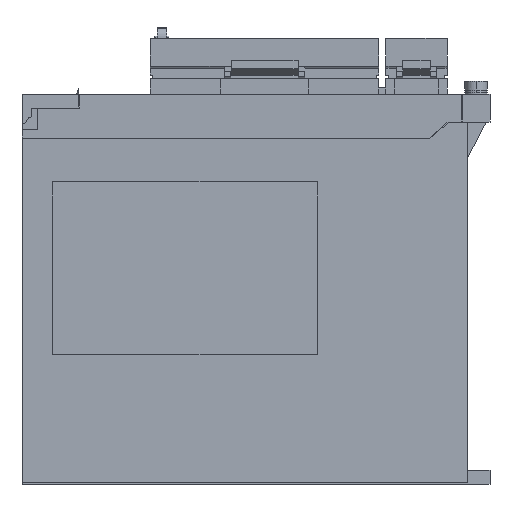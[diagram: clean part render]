
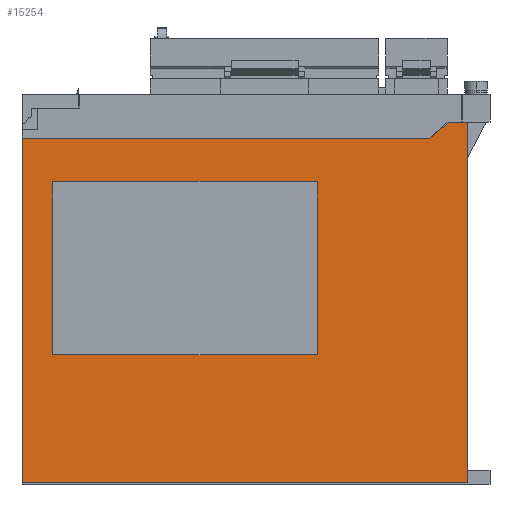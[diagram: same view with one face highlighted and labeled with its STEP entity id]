
A CAD part, left-side view. The second image highlights one B-rep face of the part: STEP entity #15254.
In plain terms, the highlighted planar face has unit normal (-1, 0, 0).
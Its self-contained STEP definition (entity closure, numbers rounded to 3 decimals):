
#12683 = VERTEX_POINT ( 'NONE', #39495 ) ;
#12685 = EDGE_CURVE ( 'NONE', #12683, #12686, #39494, .T. ) ;
#12686 = VERTEX_POINT ( 'NONE', #39490 ) ;
#13083 = VERTEX_POINT ( 'NONE', #40151 ) ;
#13121 = VERTEX_POINT ( 'NONE', #40213 ) ;
#13123 = EDGE_CURVE ( 'NONE', #13083, #13121, #40212, .T. ) ;
#15232 = ORIENTED_EDGE ( 'NONE', *, *, #15233, .F. ) ;
#15233 = EDGE_CURVE ( 'NONE', #15234, #15258, #43842, .T. ) ;
#15234 = VERTEX_POINT ( 'NONE', #43838 ) ;
#15235 = ORIENTED_EDGE ( 'NONE', *, *, #15236, .F. ) ;
#15236 = EDGE_CURVE ( 'NONE', #15237, #15234, #43837, .T. ) ;
#15237 = VERTEX_POINT ( 'NONE', #43833 ) ;
#15238 = ORIENTED_EDGE ( 'NONE', *, *, #15239, .F. ) ;
#15239 = EDGE_CURVE ( 'NONE', #15259, #15237, #43832, .T. ) ;
#15240 = EDGE_LOOP ( 'NONE', ( #15241, #15242, #15245, #15304, #15306, #15307 ) ) ;
#15241 = ORIENTED_EDGE ( 'NONE', *, *, #12685, .F. ) ;
#15242 = ORIENTED_EDGE ( 'NONE', *, *, #15243, .F. ) ;
#15243 = EDGE_CURVE ( 'NONE', #15244, #12683, #43828, .T. ) ;
#15244 = VERTEX_POINT ( 'NONE', #43824 ) ;
#15245 = ORIENTED_EDGE ( 'NONE', *, *, #15303, .F. ) ;
#15246 = VERTEX_POINT ( 'NONE', #43823 ) ;
#15254 = ADVANCED_FACE ( 'NONE', ( #43880, #43879 ), #43878, .F. ) ;
#15255 = EDGE_LOOP ( 'NONE', ( #15256, #15232, #15235, #15238 ) ) ;
#15256 = ORIENTED_EDGE ( 'NONE', *, *, #15257, .F. ) ;
#15257 = EDGE_CURVE ( 'NONE', #15258, #15259, #43873, .T. ) ;
#15258 = VERTEX_POINT ( 'NONE', #43869 ) ;
#15259 = VERTEX_POINT ( 'NONE', #43868 ) ;
#15303 = EDGE_CURVE ( 'NONE', #15246, #15244, #43921, .T. ) ;
#15304 = ORIENTED_EDGE ( 'NONE', *, *, #15305, .F. ) ;
#15305 = EDGE_CURVE ( 'NONE', #13083, #15246, #43917, .T. ) ;
#15306 = ORIENTED_EDGE ( 'NONE', *, *, #13123, .T. ) ;
#15307 = ORIENTED_EDGE ( 'NONE', *, *, #15308, .T. ) ;
#15308 = EDGE_CURVE ( 'NONE', #13121, #12686, #43975, .T. ) ;
#39490 = CARTESIAN_POINT ( 'NONE',  ( -35., -155., 0.5 ) ) ;
#39491 = DIRECTION ( 'NONE',  ( 0., 0., -1. ) ) ;
#39492 = VECTOR ( 'NONE', #39491, 1000. ) ;
#39493 = CARTESIAN_POINT ( 'NONE',  ( -35., -155., 288.924 ) ) ;
#39494 = LINE ( 'NONE', #39493, #39492 ) ;
#39495 = CARTESIAN_POINT ( 'NONE',  ( -35., -155., 129.8 ) ) ;
#40151 = CARTESIAN_POINT ( 'NONE',  ( -35., 5., 124. ) ) ;
#40209 = DIRECTION ( 'NONE',  ( 0., 0., -1. ) ) ;
#40210 = VECTOR ( 'NONE', #40209, 1000. ) ;
#40211 = CARTESIAN_POINT ( 'NONE',  ( -35., 5., 288.924 ) ) ;
#40212 = LINE ( 'NONE', #40211, #40210 ) ;
#40213 = CARTESIAN_POINT ( 'NONE',  ( -35., 5., 0.5 ) ) ;
#43823 = CARTESIAN_POINT ( 'NONE',  ( -35., -141.328, 124. ) ) ;
#43824 = CARTESIAN_POINT ( 'NONE',  ( -35., -148., 129.8 ) ) ;
#43825 = DIRECTION ( 'NONE',  ( 0., -1., 0. ) ) ;
#43826 = VECTOR ( 'NONE', #43825, 1000. ) ;
#43827 = CARTESIAN_POINT ( 'NONE',  ( -35., -153., 129.8 ) ) ;
#43828 = LINE ( 'NONE', #43827, #43826 ) ;
#43829 = DIRECTION ( 'NONE',  ( 0., 1., 0. ) ) ;
#43830 = VECTOR ( 'NONE', #43829, 1000. ) ;
#43831 = CARTESIAN_POINT ( 'NONE',  ( -35., -6., 108.5 ) ) ;
#43832 = LINE ( 'NONE', #43831, #43830 ) ;
#43833 = CARTESIAN_POINT ( 'NONE',  ( -35., -6., 108.5 ) ) ;
#43834 = DIRECTION ( 'NONE',  ( 0., 0., -1. ) ) ;
#43835 = VECTOR ( 'NONE', #43834, 1000. ) ;
#43836 = CARTESIAN_POINT ( 'NONE',  ( -35., -6., 46.5 ) ) ;
#43837 = LINE ( 'NONE', #43836, #43835 ) ;
#43838 = CARTESIAN_POINT ( 'NONE',  ( -35., -6., 46.5 ) ) ;
#43839 = DIRECTION ( 'NONE',  ( 0., -1., 0. ) ) ;
#43840 = VECTOR ( 'NONE', #43839, 1000. ) ;
#43841 = CARTESIAN_POINT ( 'NONE',  ( -35., -6., 46.5 ) ) ;
#43842 = LINE ( 'NONE', #43841, #43840 ) ;
#43868 = CARTESIAN_POINT ( 'NONE',  ( -35., -101., 108.5 ) ) ;
#43869 = CARTESIAN_POINT ( 'NONE',  ( -35., -101., 46.5 ) ) ;
#43870 = DIRECTION ( 'NONE',  ( 0., 0., 1. ) ) ;
#43871 = VECTOR ( 'NONE', #43870, 1000. ) ;
#43872 = CARTESIAN_POINT ( 'NONE',  ( -35., -101., 46.5 ) ) ;
#43873 = LINE ( 'NONE', #43872, #43871 ) ;
#43874 = DIRECTION ( 'NONE',  ( 0., 0., -1. ) ) ;
#43875 = DIRECTION ( 'NONE',  ( 1., 0., 0. ) ) ;
#43876 = CARTESIAN_POINT ( 'NONE',  ( -35., 5., 288.924 ) ) ;
#43877 = AXIS2_PLACEMENT_3D ( 'NONE', #43876, #43875, #43874 ) ;
#43878 = PLANE ( 'NONE',  #43877 ) ;
#43879 = FACE_OUTER_BOUND ( 'NONE', #15240, .T. ) ;
#43880 = FACE_BOUND ( 'NONE', #15255, .T. ) ;
#43917 = LINE ( 'NONE', #43978, #43977 ) ;
#43918 = DIRECTION ( 'NONE',  ( 0., -0.755, 0.656 ) ) ;
#43919 = VECTOR ( 'NONE', #43918, 1000. ) ;
#43920 = CARTESIAN_POINT ( 'NONE',  ( -35., -141.328, 124. ) ) ;
#43921 = LINE ( 'NONE', #43920, #43919 ) ;
#43972 = DIRECTION ( 'NONE',  ( 0., -1., 0. ) ) ;
#43973 = VECTOR ( 'NONE', #43972, 1000. ) ;
#43974 = CARTESIAN_POINT ( 'NONE',  ( -35., 5., 0.5 ) ) ;
#43975 = LINE ( 'NONE', #43974, #43973 ) ;
#43976 = DIRECTION ( 'NONE',  ( 0., -1., 0. ) ) ;
#43977 = VECTOR ( 'NONE', #43976, 1000. ) ;
#43978 = CARTESIAN_POINT ( 'NONE',  ( -35., 13.365, 124. ) ) ;
